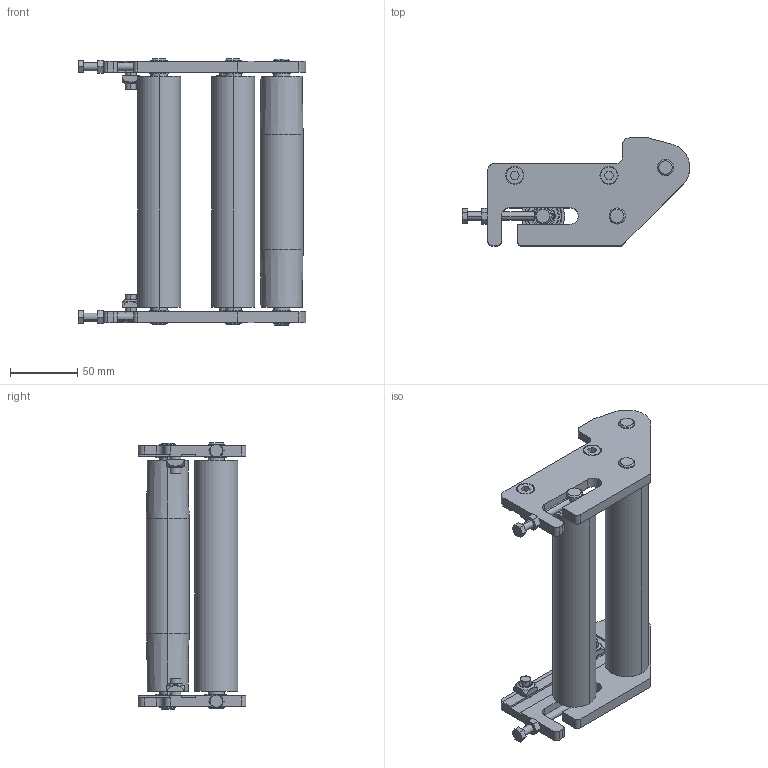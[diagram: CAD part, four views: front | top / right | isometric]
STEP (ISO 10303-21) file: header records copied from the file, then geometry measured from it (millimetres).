
FILE_DESCRIPTION (( 'STEP AP214' ), '1' );
FILE_NAME ('084.030.KF.150.STEP', '2019-08-06T09:17:09', ( '' ), ( '' ), 'SwSTEP 2.0', 'SolidWorks 2018', '' );
FILE_SCHEMA (( 'AUTOMOTIVE_DESIGN' ));
Length unit declared in the file: millimetre
Products named in the file (12): VITI TE UNI 5739_M6x50 UNI 5739; DADI ESAGONALI NORMALI UNI 5588_M6 UNI 5588; 356.159.001 (dx); 084.030.KF.150; Circlip DIN 471 - 12 x 1_Circlip DIN 471 - 12 x 1; 084.302.000 DADI ALUSIC 13x13-1_084.302.004; 084.802.036; 084.801.035.150_084.030.104; 084.301.000 VITI ALUSIC-2_084.301.002; 084.801.034.150; 084.801.033.150; 356.159.001 (sx)
Assembly tree (38 placements, depth 2):
  084.030.KF.150
    356.159.001 (dx)
    356.159.001 (sx)
    084.801.033.150
    084.801.034.150  x3
    084.801.035.150_084.030.104  x2
    084.802.036  x6
    DADI ESAGONALI NORMALI UNI 5588_M6 UNI 5588  x2
    VITI TE UNI 5739_M6x50 UNI 5739  x2
    084.301.000 VITI ALUSIC-2_084.301.002  x4
    084.302.000 DADI ALUSIC 13x13-1_084.302.004  x4
    Circlip DIN 471 - 12 x 1_Circlip DIN 471 - 12 x 1  x12
Bounding box: 168.93 x 80 x 197.6 mm (x, y, z)
Volume: 360339 mm3; surface area: 195706.1 mm2
Topology: 44 solids, 50 shells, 1034 faces, 2434 edges, 1550 vertices
Faces by surface type: cylinder 486, plane 320, torus 140, cone 72, bspline 16
Entity records: 10697 total; most frequent: CARTESIAN_POINT 2200, DIRECTION 1768, ORIENTED_EDGE 1544, EDGE_CURVE 772, AXIS2_PLACEMENT_3D 708, VERTEX_POINT 494, EDGE_LOOP 372, VECTOR 352
